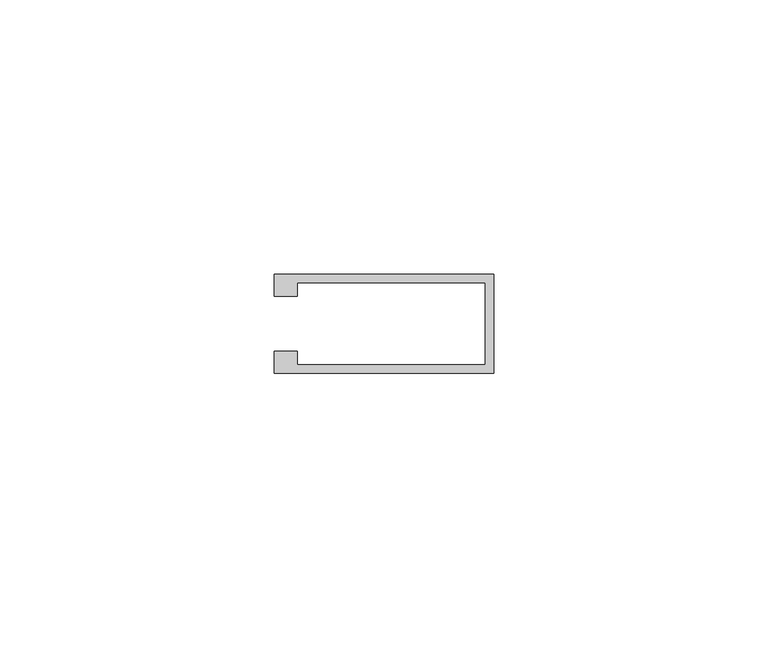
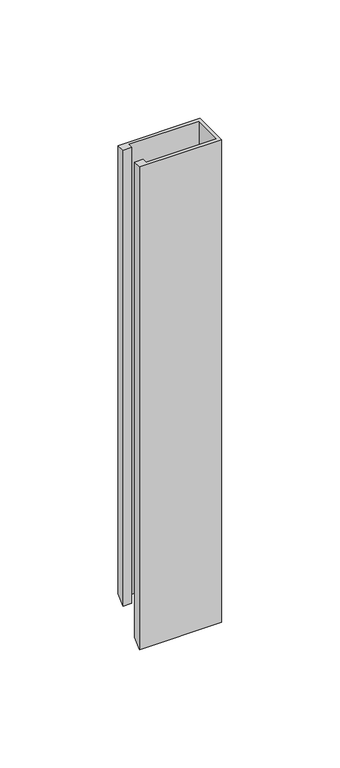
"""IFC4 building model written with IfcOpenShell, lengths in millimetres: member geometry, Прямоугольный импост : 11-AMG-1-Профиль 40Х18 Верх П."""

import ifcopenshell
import ifcopenshell.guid

model = None  # the IFC model being written
_history = None  # IfcOwnerHistory: only IFC2X3 demands one
_inside = {}  # id of a spatial element -> (the spatial element, [elements in it])
_under = {}  # id of a project, library or spatial element -> (it, [spatial elements below it])
_declared = {}  # id of a project -> (the project, [libraries it declares])
_typed = {}  # id of a type object -> (the type object, [elements of that type])
_made_of = {}  # id of a material, layer set ... -> (it, [elements and type objects made of it])


def new_model(schema):
    """Start an empty IFC model of exactly this schema.

    Asked for "IFC4X3", IfcOpenShell would pick the latest addendum, in which some entities
    have other attributes; the version numbers below select the first issue.
    IFC2X3 requires an IfcOwnerHistory on every rooted entity: one is made here for all.
    """
    global model, _history
    if schema == "IFC4X3":
        model = ifcopenshell.file(schema_version=(4, 3, 0, 0))
    else:
        model = ifcopenshell.file(schema=schema)
    _inside.clear()
    _under.clear()
    _declared.clear()
    _typed.clear()
    _made_of.clear()
    _history = None
    if model.schema == "IFC2X3":
        org = make("IfcOrganization", Name="unknown")
        user = make(
            "IfcPersonAndOrganization",
            ThePerson=make("IfcPerson", FamilyName="unknown"),
            TheOrganization=org,
        )
        app = make(
            "IfcApplication",
            ApplicationDeveloper=org,
            Version="unknown",
            ApplicationFullName="unknown",
            ApplicationIdentifier="unknown",
        )
        _history = make(
            "IfcOwnerHistory",
            OwningUser=user,
            OwningApplication=app,
            ChangeAction="ADDED",
            CreationDate=0,
        )
    return model


def make(cls, **values):
    """One entity of the class cls with the attributes given. An attribute that is None is left unset."""
    return model.create_entity(
        cls, **{name: value for name, value in values.items() if value is not None}
    )


def rooted(cls, **values):
    """An entity with a GlobalId (a new one), such as an element, a storey or a relation."""
    return make(cls, GlobalId=ifcopenshell.guid.new(), OwnerHistory=_history, **values)


def si_unit(unit_type, name, prefix=None):
    """IfcSIUnit, for example si_unit("LENGTHUNIT", "METRE", prefix="MILLI")."""
    return make("IfcSIUnit", UnitType=unit_type, Prefix=prefix, Name=name)


def assignment(units):
    """IfcUnitAssignment: the units of a project."""
    return None if units is None else make("IfcUnitAssignment", Units=units)


def point(xyz):
    """IfcCartesianPoint."""
    return None if xyz is None else make("IfcCartesianPoint", Coordinates=xyz)


def direction(xyz):
    """IfcDirection."""
    return None if xyz is None else make("IfcDirection", DirectionRatios=xyz)


def frame(location, z_axis=None, x_axis=None):
    """IfcAxis2Placement3D, a coordinate frame: its origin and axes. An axis left out is left unset."""
    return make(
        "IfcAxis2Placement3D",
        Location=point(location),
        Axis=direction(z_axis),
        RefDirection=direction(x_axis),
    )


def origin():
    """The frame at (0, 0, 0) with its axes left unset."""
    return frame((0.0, 0.0, 0.0))


def place(relative_to, where):
    """IfcLocalPlacement: puts the frame where relative to a parent placement (None: the world)."""
    return make(
        "IfcLocalPlacement", PlacementRelTo=relative_to, RelativePlacement=where
    )


def context(
    kind, dimensions, precision=None, world=None, true_north=None, identifier=None
):
    """IfcGeometricRepresentationContext, for example the 3D "Model" context."""
    return make(
        "IfcGeometricRepresentationContext",
        ContextIdentifier=identifier,
        ContextType=kind,
        CoordinateSpaceDimension=dimensions,
        Precision=precision,
        WorldCoordinateSystem=world,
        TrueNorth=true_north,
    )


def project(units=None, contexts=None):
    """IfcProject with its units and contexts."""
    return rooted(
        "IfcProject",
        Name="project",
        RepresentationContexts=contexts,
        UnitsInContext=assignment(units),
    )


def spatial(cls, under=None, at=None, **own):
    """A site, building, storey or space (cls), placed at a placement, below another one or the project."""
    s = rooted(cls, ObjectPlacement=at, **own)
    if under is not None:
        _under.setdefault(under.id(), (under, []))[1].append(s)
    return s


def faces_of(points, faces, orient=None, outer=None):
    """IfcFace entities. A face is a list of loops; a loop is a list of indices into points, from 0.

    orient and outer hold one flag for each loop. By default every Orientation is true, the
    first loop of a face is its IfcFaceOuterBound and the others are IfcFaceBound.
    """
    made = []
    for i, loops in enumerate(faces):
        bounds = []
        for j, loop in enumerate(loops):
            is_outer = j == 0 if outer is None else outer[i][j]
            bounds.append(
                make(
                    "IfcFaceOuterBound" if is_outer else "IfcFaceBound",
                    Bound=make("IfcPolyLoop", Polygon=[points[k] for k in loop]),
                    Orientation=True if orient is None else orient[i][j],
                )
            )
        made.append(make("IfcFace", Bounds=bounds))
    return made


def faceted_brep(points, faces, orient=None, outer=None, voids=None):
    """IfcFacetedBrep: a solid bounded by flat faces; with voids (closed shells), ...WithVoids."""
    shared = [point(p) for p in points]
    hull = make("IfcClosedShell", CfsFaces=faces_of(shared, faces, orient, outer))
    if voids is None:
        return make("IfcFacetedBrep", Outer=hull)
    return make(
        "IfcFacetedBrepWithVoids",
        Outer=hull,
        Voids=[
            make(cls, CfsFaces=faces_of(shared, fs, o, b)) for cls, fs, o, b in voids
        ],
    )


def shape(context_of_items, identifier, shape_type, items):
    """IfcShapeRepresentation: the items that make up one representation, for example the "Body"."""
    return make(
        "IfcShapeRepresentation",
        ContextOfItems=context_of_items,
        RepresentationIdentifier=identifier,
        RepresentationType=shape_type,
        Items=items,
    )


def source(mapping_origin, context_of_items, identifier, shape_type, items):
    """IfcRepresentationMap: a shape defined once, which mapped items show again and again."""
    return make(
        "IfcRepresentationMap",
        MappingOrigin=mapping_origin,
        MappedRepresentation=shape(context_of_items, identifier, shape_type, items),
    )


def transform(
    local_origin,
    x_axis=None,
    y_axis=None,
    z_axis=None,
    scale=None,
    scale2=None,
    scale3=None,
    uniform=True,
):
    """IfcCartesianTransformationOperator3D, or its non-uniform kind. x_axis, y_axis, z_axis: its Axis1, 2, 3."""
    if uniform:
        return make(
            "IfcCartesianTransformationOperator3D",
            Axis1=direction(x_axis),
            Axis2=direction(y_axis),
            LocalOrigin=point(local_origin),
            Scale=scale,
            Axis3=direction(z_axis),
        )
    return make(
        "IfcCartesianTransformationOperator3DnonUniform",
        Axis1=direction(x_axis),
        Axis2=direction(y_axis),
        LocalOrigin=point(local_origin),
        Scale=scale,
        Axis3=direction(z_axis),
        Scale2=scale2,
        Scale3=scale3,
    )


def mapped(mapping_source, mapping_target):
    """IfcMappedItem: shows the shape of a source again, moved by a transform."""
    return make(
        "IfcMappedItem", MappingSource=mapping_source, MappingTarget=mapping_target
    )


def made_of(thing, what):
    """Note that an element or type object is made of a material, layer set ...; save() writes the relation."""
    if what is not None:
        _made_of.setdefault(what.id(), (what, []))[1].append(thing)
    return thing


def element(
    cls,
    number,
    at=None,
    inside=None,
    cuts=None,
    type_object=None,
    material=None,
    context=None,
    identifier="Body",
    shape_type=None,
    held_by="IfcProductDefinitionShape",
    body=None,
    shapes=None,
    **own,
):
    """One element of the class cls, such as IfcWall. Its Tag is "e" and its number.

    at: its placement. inside: the storey or other place that contains it. cuts: it is an
    opening in that element (IfcRelVoidsElement). A single representation is given by context,
    identifier, shape_type and body (its items); several are given by shapes. held_by: the class
    of the entity that holds the representations. save() writes the other relations.
    """
    e = rooted(cls, Tag="e%d" % number, ObjectPlacement=at, **own)
    if body is not None:
        shapes = [shape(context, identifier, shape_type, body)]
    if shapes is not None:
        e.Representation = make(held_by, Representations=shapes)
    if inside is not None:
        _inside.setdefault(inside.id(), (inside, []))[1].append(e)
    if cuts is not None:
        rooted(
            "IfcRelVoidsElement", RelatingBuildingElement=cuts, RelatedOpeningElement=e
        )
    if type_object is not None:
        _typed.setdefault(type_object.id(), (type_object, []))[1].append(e)
    return made_of(e, material)


def aggregate(whole, parts):
    """IfcRelAggregates: a whole, such as a stair, and the parts it consists of."""
    return rooted("IfcRelAggregates", RelatingObject=whole, RelatedObjects=parts)


def save(model, path):
    """Write the relations noted so far, then the file.

    IfcRelAggregates (storeys below a building ...), IfcRelContainedInSpatialStructure (elements
    in a storey), IfcRelDefinesByType, IfcRelAssociatesMaterial and IfcRelDeclares: one each for
    every whole, place, type object, material and project.
    """
    for whole, parts in _under.values():
        aggregate(whole, parts)
    for where, things in _inside.values():
        rooted(
            "IfcRelContainedInSpatialStructure",
            RelatedElements=things,
            RelatingStructure=where,
        )
    for kind, things in _typed.values():
        rooted("IfcRelDefinesByType", RelatedObjects=things, RelatingType=kind)
    for what, things in _made_of.values():
        rooted("IfcRelAssociatesMaterial", RelatedObjects=things, RelatingMaterial=what)
    for by, libraries in _declared.values():
        rooted("IfcRelDeclares", RelatingContext=by, RelatedDefinitions=libraries)
    model.write(path)


def member_e7f97213(model_context):
    return source(origin(), model_context, "Body", "Brep", [
        faceted_brep([(-40.0, 5.0, 0.0), (-35.8552307, 5.0, 0.0), (-35.8552307, 7.5, 0.0), (-1.5, 7.5, 0.0), (-1.5, -7.5, 0.0), (-35.8552307, -7.5, 0.0), (-35.8552307, -5.0, 0.0), (-40.0, -5.0, 0.0), (-40.0, -9.0, 0.0), (0.0, -9.0, 0.0), (0.0, 9.0, 0.0), (-40.0, 9.0, 0.0), (-40.0, 5.0, -235.0), (-35.8552307, 5.0, -235.0), (-35.8552307, 7.5, -232.5), (-1.5, 7.5, -232.5), (-1.5, -7.5, -247.5), (-35.8552307, -7.5, -247.5), (-35.8552307, -5.0, -245.0), (-40.0, -5.0, -245.0), (-40.0, -9.0, -249.0), (0.0, -9.0, -249.0), (0.0, 9.0, -231.0), (-40.0, 9.0, -231.0)], [[[0, 1, 2, 3, 4, 5, 6, 7, 8, 9, 10, 11]], [[1, 0, 12, 13]], [[2, 1, 13, 14]], [[3, 2, 14, 15]], [[4, 3, 15, 16]], [[5, 4, 16, 17]], [[6, 5, 17, 18]], [[7, 6, 18, 19]], [[8, 7, 19, 20]], [[9, 8, 20, 21]], [[10, 9, 21, 22]], [[11, 10, 22, 23]], [[0, 11, 23, 12]], [[12, 23, 22, 21, 20, 19, 18, 17, 16, 15, 14, 13]]]),
    ])


if __name__ == "__main__":
    model = new_model("IFC4")
    model_context = context("Model", 3, world=origin())
    ifc_project = project(units=[si_unit("LENGTHUNIT", "METRE", prefix="MILLI")], contexts=[model_context])
    site = spatial("IfcSite", under=ifc_project)
    building = spatial("IfcBuilding", under=site)
    placement = place(None, origin())
    member_shape = member_e7f97213(model_context)
    element("IfcMember", 1, ObjectType="Прямоугольный импост : 11-AMG-1-Профиль 40Х18 Верх П", at=placement, inside=building, context=model_context, shape_type="MappedRepresentation", body=[
        mapped(member_shape, transform((0.0, 0.0, 0.0), x_axis=(1.0, 0.0, 0.0), y_axis=(0.0, 1.0, 0.0), z_axis=(0.0, 0.0, 1.0))),
    ])
    save(model, "model.ifc")
